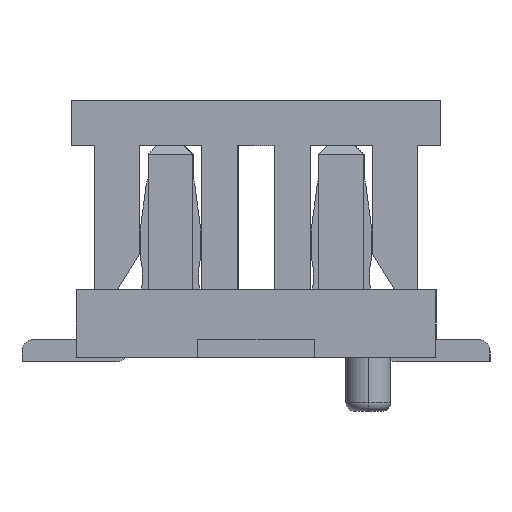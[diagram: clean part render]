
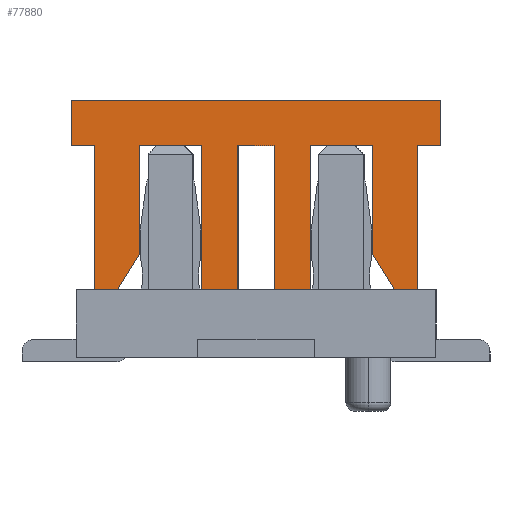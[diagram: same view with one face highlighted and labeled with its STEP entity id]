
A CAD part, left-side view. The second image highlights one B-rep face of the part: STEP entity #77880.
In plain terms, the highlighted planar face has unit normal (-1, 0, 0).
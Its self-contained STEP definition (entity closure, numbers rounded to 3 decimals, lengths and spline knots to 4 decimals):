
#77213=CARTESIAN_POINT('Vertex',(-4.,0.61,0.75)) ;
#77218=CARTESIAN_POINT('Line Origine',(-4.,0.61,1.55)) ;
#77222=CARTESIAN_POINT('Vertex',(-4.,0.61,2.35)) ;
#77249=CARTESIAN_POINT('Line Origine',(-4.,0.95,2.35)) ;
#77253=CARTESIAN_POINT('Vertex',(-4.,1.29,2.35)) ;
#77280=CARTESIAN_POINT('Line Origine',(-4.,1.29,1.75)) ;
#77284=CARTESIAN_POINT('Vertex',(-4.,1.29,1.15)) ;
#77311=CARTESIAN_POINT('Line Origine',(-4.,1.415,0.95)) ;
#77315=CARTESIAN_POINT('Vertex',(-4.,1.54,0.75)) ;
#77342=CARTESIAN_POINT('Line Origine',(-4.,1.665,0.75)) ;
#77346=CARTESIAN_POINT('Vertex',(-4.,1.79,0.75)) ;
#77373=CARTESIAN_POINT('Line Origine',(-4.,1.79,1.55)) ;
#77377=CARTESIAN_POINT('Vertex',(-4.,1.79,2.35)) ;
#77399=CARTESIAN_POINT('Line Origine',(-4.,1.92,2.35)) ;
#77403=CARTESIAN_POINT('Vertex',(-4.,2.05,2.35)) ;
#77430=CARTESIAN_POINT('Line Origine',(-4.,2.05,2.6)) ;
#77434=CARTESIAN_POINT('Vertex',(-4.,2.05,2.85)) ;
#77461=CARTESIAN_POINT('Line Origine',(-4.,0.,2.85)) ;
#77465=CARTESIAN_POINT('Vertex',(-4.,-2.05,2.85)) ;
#77492=CARTESIAN_POINT('Line Origine',(-4.,-2.05,2.6)) ;
#77496=CARTESIAN_POINT('Vertex',(-4.,-2.05,2.35)) ;
#77518=CARTESIAN_POINT('Line Origine',(-4.,-1.92,2.35)) ;
#77522=CARTESIAN_POINT('Vertex',(-4.,-1.79,2.35)) ;
#77549=CARTESIAN_POINT('Line Origine',(-4.,-1.79,1.55)) ;
#77553=CARTESIAN_POINT('Vertex',(-4.,-1.79,0.75)) ;
#77575=CARTESIAN_POINT('Line Origine',(-4.,-1.665,0.75)) ;
#77579=CARTESIAN_POINT('Vertex',(-4.,-1.54,0.75)) ;
#77606=CARTESIAN_POINT('Line Origine',(-4.,-1.415,0.95)) ;
#77610=CARTESIAN_POINT('Vertex',(-4.,-1.29,1.15)) ;
#77637=CARTESIAN_POINT('Line Origine',(-4.,-1.29,1.75)) ;
#77641=CARTESIAN_POINT('Vertex',(-4.,-1.29,2.35)) ;
#77663=CARTESIAN_POINT('Line Origine',(-4.,-0.95,2.35)) ;
#77667=CARTESIAN_POINT('Vertex',(-4.,-0.61,2.35)) ;
#77694=CARTESIAN_POINT('Line Origine',(-4.,-0.61,1.55)) ;
#77698=CARTESIAN_POINT('Vertex',(-4.,-0.61,0.75)) ;
#77720=CARTESIAN_POINT('Line Origine',(-4.,-0.405,0.75)) ;
#77724=CARTESIAN_POINT('Vertex',(-4.,-0.2,0.75)) ;
#77751=CARTESIAN_POINT('Line Origine',(-4.,-0.2,1.55)) ;
#77755=CARTESIAN_POINT('Vertex',(-4.,-0.2,2.35)) ;
#77777=CARTESIAN_POINT('Line Origine',(-4.,0.,2.35)) ;
#77781=CARTESIAN_POINT('Vertex',(-4.,0.2,2.35)) ;
#77808=CARTESIAN_POINT('Line Origine',(-4.,0.2,1.55)) ;
#77812=CARTESIAN_POINT('Vertex',(-4.,0.2,0.75)) ;
#77834=CARTESIAN_POINT('Line Origine',(-4.,0.405,0.75)) ;
#77851=CARTESIAN_POINT('Axis2P3D Location',(-4.,0.,0.)) ;
#77219=DIRECTION('Vector Direction',(0.,0.,1.)) ;
#77250=DIRECTION('Vector Direction',(0.,1.,0.)) ;
#77281=DIRECTION('Vector Direction',(0.,0.,-1.)) ;
#77312=DIRECTION('Vector Direction',(0.,0.53,-0.848)) ;
#77343=DIRECTION('Vector Direction',(0.,1.,0.)) ;
#77374=DIRECTION('Vector Direction',(0.,0.,1.)) ;
#77400=DIRECTION('Vector Direction',(0.,1.,0.)) ;
#77431=DIRECTION('Vector Direction',(0.,0.,1.)) ;
#77462=DIRECTION('Vector Direction',(0.,1.,0.)) ;
#77493=DIRECTION('Vector Direction',(0.,0.,1.)) ;
#77519=DIRECTION('Vector Direction',(0.,-1.,0.)) ;
#77550=DIRECTION('Vector Direction',(0.,0.,1.)) ;
#77576=DIRECTION('Vector Direction',(0.,-1.,0.)) ;
#77607=DIRECTION('Vector Direction',(0.,-0.53,-0.848)) ;
#77638=DIRECTION('Vector Direction',(0.,0.,-1.)) ;
#77664=DIRECTION('Vector Direction',(0.,-1.,0.)) ;
#77695=DIRECTION('Vector Direction',(0.,0.,1.)) ;
#77721=DIRECTION('Vector Direction',(0.,-1.,0.)) ;
#77752=DIRECTION('Vector Direction',(0.,0.,1.)) ;
#77778=DIRECTION('Vector Direction',(0.,1.,0.)) ;
#77809=DIRECTION('Vector Direction',(0.,0.,-1.)) ;
#77835=DIRECTION('Vector Direction',(0.,-1.,0.)) ;
#77852=DIRECTION('Axis2P3D Direction',(1.,0.,0.)) ;
#77853=DIRECTION('Axis2P3D XDirection',(0.,1.,0.)) ;
#77854=AXIS2_PLACEMENT_3D('Plane Axis2P3D',#77851,#77852,#77853) ;
#77857=ORIENTED_EDGE('',*,*,#77838,.F.) ;
#77858=ORIENTED_EDGE('',*,*,#77814,.F.) ;
#77859=ORIENTED_EDGE('',*,*,#77783,.F.) ;
#77860=ORIENTED_EDGE('',*,*,#77757,.F.) ;
#77861=ORIENTED_EDGE('',*,*,#77726,.F.) ;
#77862=ORIENTED_EDGE('',*,*,#77700,.F.) ;
#77863=ORIENTED_EDGE('',*,*,#77669,.F.) ;
#77864=ORIENTED_EDGE('',*,*,#77643,.F.) ;
#77865=ORIENTED_EDGE('',*,*,#77612,.F.) ;
#77866=ORIENTED_EDGE('',*,*,#77581,.F.) ;
#77867=ORIENTED_EDGE('',*,*,#77555,.F.) ;
#77868=ORIENTED_EDGE('',*,*,#77524,.F.) ;
#77869=ORIENTED_EDGE('',*,*,#77498,.F.) ;
#77870=ORIENTED_EDGE('',*,*,#77467,.F.) ;
#77871=ORIENTED_EDGE('',*,*,#77436,.F.) ;
#77872=ORIENTED_EDGE('',*,*,#77405,.F.) ;
#77873=ORIENTED_EDGE('',*,*,#77379,.F.) ;
#77874=ORIENTED_EDGE('',*,*,#77348,.F.) ;
#77875=ORIENTED_EDGE('',*,*,#77317,.F.) ;
#77876=ORIENTED_EDGE('',*,*,#77286,.F.) ;
#77877=ORIENTED_EDGE('',*,*,#77255,.F.) ;
#77878=ORIENTED_EDGE('',*,*,#77224,.F.) ;
#77220=VECTOR('Line Direction',#77219,1.) ;
#77251=VECTOR('Line Direction',#77250,1.) ;
#77282=VECTOR('Line Direction',#77281,1.) ;
#77313=VECTOR('Line Direction',#77312,1.) ;
#77344=VECTOR('Line Direction',#77343,1.) ;
#77375=VECTOR('Line Direction',#77374,1.) ;
#77401=VECTOR('Line Direction',#77400,1.) ;
#77432=VECTOR('Line Direction',#77431,1.) ;
#77463=VECTOR('Line Direction',#77462,1.) ;
#77494=VECTOR('Line Direction',#77493,1.) ;
#77520=VECTOR('Line Direction',#77519,1.) ;
#77551=VECTOR('Line Direction',#77550,1.) ;
#77577=VECTOR('Line Direction',#77576,1.) ;
#77608=VECTOR('Line Direction',#77607,1.) ;
#77639=VECTOR('Line Direction',#77638,1.) ;
#77665=VECTOR('Line Direction',#77664,1.) ;
#77696=VECTOR('Line Direction',#77695,1.) ;
#77722=VECTOR('Line Direction',#77721,1.) ;
#77753=VECTOR('Line Direction',#77752,1.) ;
#77779=VECTOR('Line Direction',#77778,1.) ;
#77810=VECTOR('Line Direction',#77809,1.) ;
#77836=VECTOR('Line Direction',#77835,1.) ;
#77880=ADVANCED_FACE('\X2\76D65B50\X0\',(#77879),#77855,.F.) ;
#77224=EDGE_CURVE('',#77214,#77223,#77221,.T.) ;
#77255=EDGE_CURVE('',#77223,#77254,#77252,.T.) ;
#77286=EDGE_CURVE('',#77254,#77285,#77283,.T.) ;
#77317=EDGE_CURVE('',#77285,#77316,#77314,.T.) ;
#77348=EDGE_CURVE('',#77316,#77347,#77345,.T.) ;
#77379=EDGE_CURVE('',#77347,#77378,#77376,.T.) ;
#77405=EDGE_CURVE('',#77378,#77404,#77402,.T.) ;
#77436=EDGE_CURVE('',#77404,#77435,#77433,.T.) ;
#77467=EDGE_CURVE('',#77435,#77466,#77464,.F.) ;
#77498=EDGE_CURVE('',#77466,#77497,#77495,.F.) ;
#77524=EDGE_CURVE('',#77497,#77523,#77521,.F.) ;
#77555=EDGE_CURVE('',#77523,#77554,#77552,.F.) ;
#77581=EDGE_CURVE('',#77554,#77580,#77578,.F.) ;
#77612=EDGE_CURVE('',#77580,#77611,#77609,.F.) ;
#77643=EDGE_CURVE('',#77611,#77642,#77640,.F.) ;
#77669=EDGE_CURVE('',#77642,#77668,#77666,.F.) ;
#77700=EDGE_CURVE('',#77668,#77699,#77697,.F.) ;
#77726=EDGE_CURVE('',#77699,#77725,#77723,.F.) ;
#77757=EDGE_CURVE('',#77725,#77756,#77754,.T.) ;
#77783=EDGE_CURVE('',#77756,#77782,#77780,.T.) ;
#77814=EDGE_CURVE('',#77782,#77813,#77811,.T.) ;
#77838=EDGE_CURVE('',#77813,#77214,#77837,.F.) ;
#77856=EDGE_LOOP('',(#77857,#77858,#77859,#77860,#77861,#77862,#77863,#77864,#77865,#77866,#77867,#77868,#77869,#77870,#77871,#77872,#77873,#77874,#77875,#77876,#77877,#77878)) ;
#77879=FACE_OUTER_BOUND('',#77856,.T.) ;
#77221=LINE('Line',#77218,#77220) ;
#77252=LINE('Line',#77249,#77251) ;
#77283=LINE('Line',#77280,#77282) ;
#77314=LINE('Line',#77311,#77313) ;
#77345=LINE('Line',#77342,#77344) ;
#77376=LINE('Line',#77373,#77375) ;
#77402=LINE('Line',#77399,#77401) ;
#77433=LINE('Line',#77430,#77432) ;
#77464=LINE('Line',#77461,#77463) ;
#77495=LINE('Line',#77492,#77494) ;
#77521=LINE('Line',#77518,#77520) ;
#77552=LINE('Line',#77549,#77551) ;
#77578=LINE('Line',#77575,#77577) ;
#77609=LINE('Line',#77606,#77608) ;
#77640=LINE('Line',#77637,#77639) ;
#77666=LINE('Line',#77663,#77665) ;
#77697=LINE('Line',#77694,#77696) ;
#77723=LINE('Line',#77720,#77722) ;
#77754=LINE('Line',#77751,#77753) ;
#77780=LINE('Line',#77777,#77779) ;
#77811=LINE('Line',#77808,#77810) ;
#77837=LINE('Line',#77834,#77836) ;
#77855=PLANE('Plane',#77854) ;
#77214=VERTEX_POINT('',#77213) ;
#77223=VERTEX_POINT('',#77222) ;
#77254=VERTEX_POINT('',#77253) ;
#77285=VERTEX_POINT('',#77284) ;
#77316=VERTEX_POINT('',#77315) ;
#77347=VERTEX_POINT('',#77346) ;
#77378=VERTEX_POINT('',#77377) ;
#77404=VERTEX_POINT('',#77403) ;
#77435=VERTEX_POINT('',#77434) ;
#77466=VERTEX_POINT('',#77465) ;
#77497=VERTEX_POINT('',#77496) ;
#77523=VERTEX_POINT('',#77522) ;
#77554=VERTEX_POINT('',#77553) ;
#77580=VERTEX_POINT('',#77579) ;
#77611=VERTEX_POINT('',#77610) ;
#77642=VERTEX_POINT('',#77641) ;
#77668=VERTEX_POINT('',#77667) ;
#77699=VERTEX_POINT('',#77698) ;
#77725=VERTEX_POINT('',#77724) ;
#77756=VERTEX_POINT('',#77755) ;
#77782=VERTEX_POINT('',#77781) ;
#77813=VERTEX_POINT('',#77812) ;
